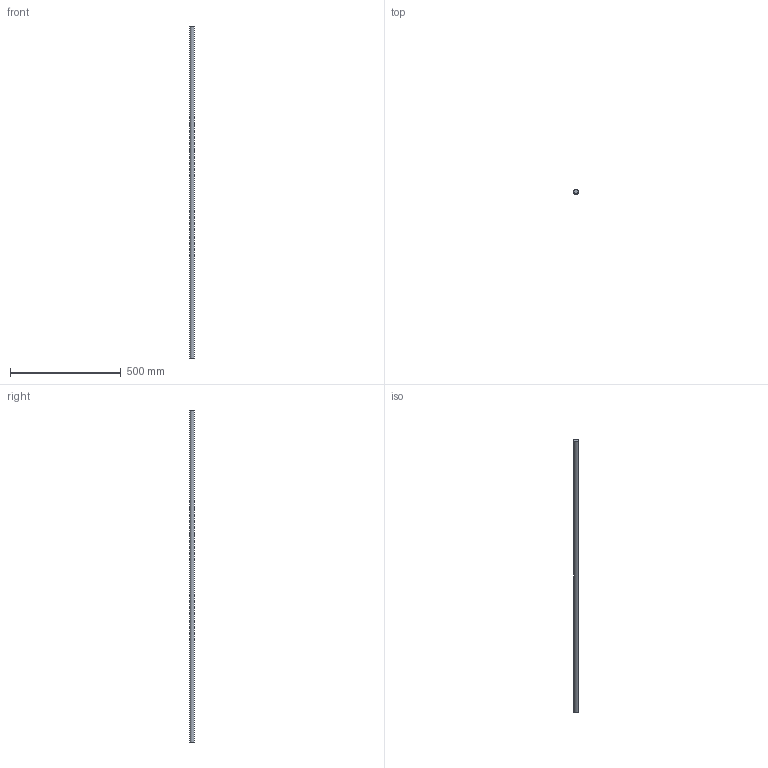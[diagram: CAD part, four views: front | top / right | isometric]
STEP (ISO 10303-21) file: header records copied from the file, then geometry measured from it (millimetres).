
FILE_DESCRIPTION(/* description */ (''),/* implementation_level */ '2;1');
FILE_NAME(/* name */ 'C:\Users\David\Desktop\stepFiles\Profilfuehrung\WF20x1500.stp',/* time_stamp */ '2018-06-24T15:49:05+02:00',/* author */ ('David'),/* organization */ (''),/* preprocessor_version */ 'ST-DEVELOPER v17',/* originating_system */ 'Autodesk Inventor 2019',/* authorisation */ '');
FILE_SCHEMA (('AUTOMOTIVE_DESIGN { 1 0 10303 214 3 1 1 }'));
Length unit declared in the file: millimetre
Products named in the file (1): Wellenfuehrung
Bounding box: 20 x 20 x 1500 mm (x, y, z)
Volume: 471238.9 mm3; surface area: 94876.1 mm2
Topology: 1 solids, 1 shells, 3 faces, 3 edges, 2 vertices
Faces by surface type: plane 2, cylinder 1
Full cylindrical faces by diameter (mm): 20 x1
Entity records: 98 total; most frequent: DIRECTION 13, CARTESIAN_POINT 9, ORIENTED_EDGE 6, AXIS2_PLACEMENT_3D 6, FACE_OUTER_BOUND 3, EDGE_LOOP 3, EDGE_CURVE 3, ADVANCED_FACE 3
